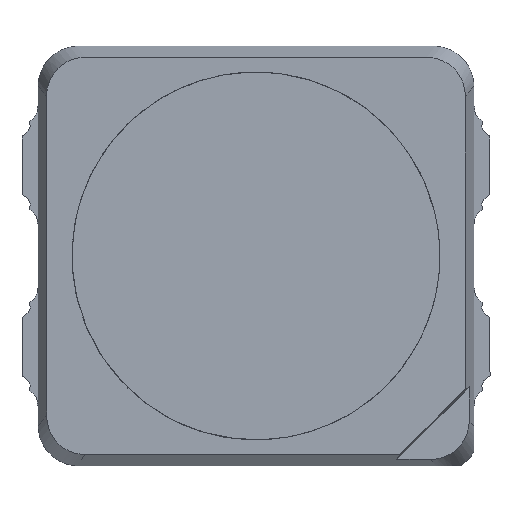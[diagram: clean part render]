
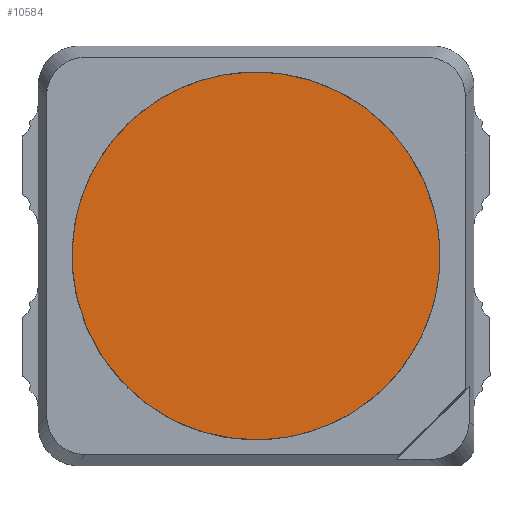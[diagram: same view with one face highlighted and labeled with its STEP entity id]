
A CAD part, top view. The second image highlights one B-rep face of the part: STEP entity #10584.
In plain terms, the highlighted planar face has unit normal (0, 0, 1).
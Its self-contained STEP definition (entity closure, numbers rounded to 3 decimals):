
#52 = AXIS2_PLACEMENT_3D ( 'NONE', #13217, #7356, #5161 ) ;
#187 = VERTEX_POINT ( 'NONE', #6614 ) ;
#374 = CARTESIAN_POINT ( 'NONE',  ( -2.23, 0.475, 0.7 ) ) ;
#427 = CARTESIAN_POINT ( 'NONE',  ( -2.297, 0.162, 0.7 ) ) ;
#776 = CARTESIAN_POINT ( 'NONE',  ( 0.787, 2.158, 0.7 ) ) ;
#825 = CARTESIAN_POINT ( 'NONE',  ( 0.516, 2.238, 0.7 ) ) ;
#871 = CARTESIAN_POINT ( 'NONE',  ( -0.038, -2.297, 0.7 ) ) ;
#1943 = CARTESIAN_POINT ( 'NONE',  ( 0.787, -2.158, 0.7 ) ) ;
#2043 = CARTESIAN_POINT ( 'NONE',  ( 1.508, -1.732, 0.7 ) ) ;
#2100 = CARTESIAN_POINT ( 'NONE',  ( -0.32, -2.275, 0.7 ) ) ;
#3077 = CARTESIAN_POINT ( 'NONE',  ( 0.516, -2.238, 0.7 ) ) ;
#3223 = CARTESIAN_POINT ( 'NONE',  ( -1.76, 1.476, 0.7 ) ) ;
#4007 = ORIENTED_EDGE ( 'NONE', *, *, #12008, .T. ) ;
#4020 = CARTESIAN_POINT ( 'NONE',  ( -2.297, -0.162, 0.7 ) ) ;
#4279 = CARTESIAN_POINT ( 'NONE',  ( 2.029, 1.077, 0.7 ) ) ;
#4326 = CARTESIAN_POINT ( 'NONE',  ( -2.23, -0.475, 0.7 ) ) ;
#4432 = CARTESIAN_POINT ( 'NONE',  ( -1.76, -1.476, 0.7 ) ) ;
#4635 = B_SPLINE_CURVE_WITH_KNOTS ( 'NONE', 3,
 ( #4326, #12407, #14691, #4432, #6692, #11164, #14745, #2100, #871, #3077, #1943, #12452, #2043, #10067, #7769, #8913, #10203, #11207, #5421, #4279, #7920, #6595, #8966, #776, #825, #10160, #12358, #5469, #13673, #12503, #3223, #13519, #11310, #14595 ),
 .UNSPECIFIED., .F., .F.,
 ( 4, 2, 2, 2, 2, 2, 2, 2, 2, 2, 2, 2, 2, 2, 2, 2, 4 ),
 ( 0., 0.063, 0.125, 0.188, 0.25, 0.313, 0.375, 0.438, 0.5, 0.563, 0.625, 0.688, 0.75, 0.813, 0.875, 0.938, 1. ),
 .UNSPECIFIED. ) ;
#5161 = DIRECTION ( 'NONE',  ( 1., 0., 0. ) ) ;
#5247 = PLANE ( 'NONE',  #52 ) ;
#5421 = CARTESIAN_POINT ( 'NONE',  ( 2.228, 0.557, 0.7 ) ) ;
#5469 = CARTESIAN_POINT ( 'NONE',  ( -0.858, 2.131, 0.7 ) ) ;
#5862 = EDGE_LOOP ( 'NONE', ( #6031, #4007 ) ) ;
#6031 = ORIENTED_EDGE ( 'NONE', *, *, #7325, .T. ) ;
#6595 = CARTESIAN_POINT ( 'NONE',  ( 1.508, 1.732, 0.7 ) ) ;
#6614 = CARTESIAN_POINT ( 'NONE',  ( -2.23, -0.475, 0.7 ) ) ;
#6692 = CARTESIAN_POINT ( 'NONE',  ( -1.565, -1.681, 0.7 ) ) ;
#7325 = EDGE_CURVE ( 'NONE', #187, #11661, #4635, .T. ) ;
#7356 = DIRECTION ( 'NONE',  ( 0., 0., 1. ) ) ;
#7769 = CARTESIAN_POINT ( 'NONE',  ( 2.029, -1.077, 0.7 ) ) ;
#7920 = CARTESIAN_POINT ( 'NONE',  ( 1.881, 1.318, 0.7 ) ) ;
#8913 = CARTESIAN_POINT ( 'NONE',  ( 2.228, -0.557, 0.7 ) ) ;
#8966 = CARTESIAN_POINT ( 'NONE',  ( 1.284, 1.905, 0.7 ) ) ;
#9213 = FACE_OUTER_BOUND ( 'NONE', #5862, .T. ) ;
#10067 = CARTESIAN_POINT ( 'NONE',  ( 1.881, -1.318, 0.7 ) ) ;
#10160 = CARTESIAN_POINT ( 'NONE',  ( -0.038, 2.297, 0.7 ) ) ;
#10203 = CARTESIAN_POINT ( 'NONE',  ( 2.28, -0.279, 0.7 ) ) ;
#10584 = ADVANCED_FACE ( 'NONE', ( #9213 ), #5247, .T. ) ;
#11164 = CARTESIAN_POINT ( 'NONE',  ( -1.114, -2.009, 0.7 ) ) ;
#11207 = CARTESIAN_POINT ( 'NONE',  ( 2.28, 0.279, 0.7 ) ) ;
#11310 = CARTESIAN_POINT ( 'NONE',  ( -2.172, 0.749, 0.7 ) ) ;
#11360 = CARTESIAN_POINT ( 'NONE',  ( -2.23, 0.475, 0.7 ) ) ;
#11487 = B_SPLINE_CURVE_WITH_KNOTS ( 'NONE', 3,
 ( #374, #427, #4020, #14439 ),
 .UNSPECIFIED., .F., .F.,
 ( 4, 4 ),
 ( 0., 1. ),
 .UNSPECIFIED. ) ;
#11661 = VERTEX_POINT ( 'NONE', #11360 ) ;
#12008 = EDGE_CURVE ( 'NONE', #11661, #187, #11487, .T. ) ;
#12358 = CARTESIAN_POINT ( 'NONE',  ( -0.32, 2.274, 0.7 ) ) ;
#12407 = CARTESIAN_POINT ( 'NONE',  ( -2.172, -0.748, 0.7 ) ) ;
#12452 = CARTESIAN_POINT ( 'NONE',  ( 1.284, -1.905, 0.7 ) ) ;
#12503 = CARTESIAN_POINT ( 'NONE',  ( -1.565, 1.682, 0.7 ) ) ;
#13217 = CARTESIAN_POINT ( 'NONE',  ( 0., 0., 0.7 ) ) ;
#13519 = CARTESIAN_POINT ( 'NONE',  ( -2.063, 1.009, 0.7 ) ) ;
#13673 = CARTESIAN_POINT ( 'NONE',  ( -1.114, 2.009, 0.7 ) ) ;
#14439 = CARTESIAN_POINT ( 'NONE',  ( -2.23, -0.475, 0.7 ) ) ;
#14595 = CARTESIAN_POINT ( 'NONE',  ( -2.23, 0.475, 0.7 ) ) ;
#14691 = CARTESIAN_POINT ( 'NONE',  ( -2.063, -1.009, 0.7 ) ) ;
#14745 = CARTESIAN_POINT ( 'NONE',  ( -0.858, -2.13, 0.7 ) ) ;
